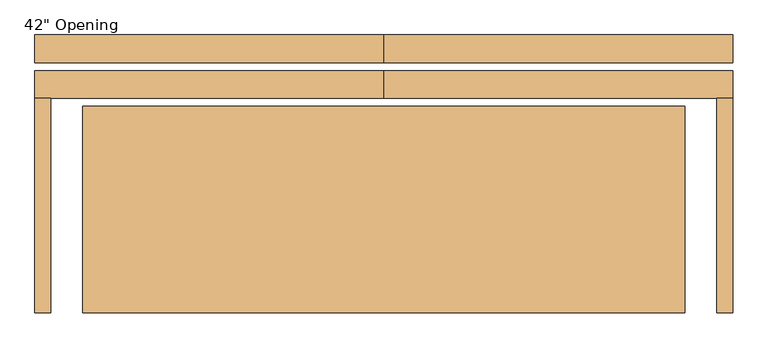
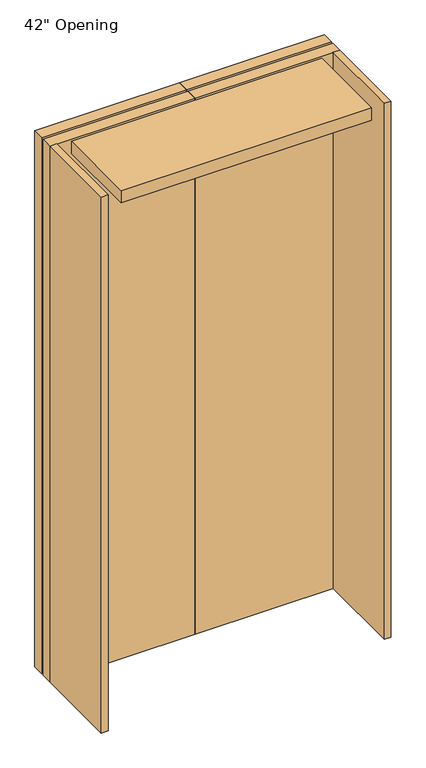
"""IFC4 building model written with IfcOpenShell, lengths in millimetres: door geometry."""

from ifc_helpers import new_model, si_unit, frame, origin, origin_with_axes, place, context, project, spatial, polyline, outline, extrude, source, transform, mapped, element, save


def door_aaeb5b8c(model_context):
    return source(origin(), model_context, "Body", "SweptSolid", [
        extrude(outline(polyline([(0.0, 234.95), (0.0, 279.4), (558.8, 279.4), (558.8, 234.95), (0.0, 234.95)])), origin_with_axes(), (0.0, 0.0, 1.0), 2184.4),
        extrude(outline(polyline([(0.0, 234.95), (-558.8, 234.95), (-558.8, 279.4), (0.0, 279.4), (0.0, 234.95)])), origin_with_axes(), (0.0, 0.0, 1.0), 2184.4),
        extrude(outline(polyline([(-533.4, -165.1), (-558.8, -165.1), (-558.8, 177.8), (-533.4, 177.8), (-533.4, -165.1)])), origin_with_axes(), (0.0, 0.0, 1.0), 2184.4),
        extrude(outline(polyline([(558.8, -165.1), (533.4, -165.1), (533.4, 177.8), (558.8, 177.8), (558.8, -165.1)])), origin_with_axes(), (0.0, 0.0, 1.0), 2184.4),
        extrude(outline(polyline([(482.6, 165.1), (482.6, -165.1), (-482.6, -165.1), (-482.6, 165.1), (482.6, 165.1)])), frame((0.0, 0.0, 2133.6), z_axis=(0.0, 0.0, 1.0), x_axis=(1.0, 0.0, 0.0)), (0.0, 0.0, 1.0), 50.8),
        extrude(outline(polyline([(0.0, 177.8), (0.0, 222.25), (558.8, 222.25), (558.8, 177.8), (0.0, 177.8)])), origin_with_axes(), (0.0, 0.0, 1.0), 2184.4),
        extrude(outline(polyline([(0.0, 177.8), (-558.8, 177.8), (-558.8, 222.25), (0.0, 222.25), (0.0, 177.8)])), origin_with_axes(), (0.0, 0.0, 1.0), 2184.4),
    ])


if __name__ == "__main__":
    model = new_model("IFC4")
    model_context = context("Model", 3, world=origin())
    ifc_project = project(units=[si_unit("LENGTHUNIT", "METRE", prefix="MILLI")], contexts=[model_context])
    site = spatial("IfcSite", under=ifc_project)
    building = spatial("IfcBuilding", under=site)
    placement = place(None, origin())
    door_shape = door_aaeb5b8c(model_context)
    element("IfcDoor", 1, ObjectType="Elevator_Door_CabCenter-Genericrfa : 42\" Opening", at=placement, inside=building, context=model_context, shape_type="MappedRepresentation", body=[
        mapped(door_shape, transform((0.0, 0.0, 0.0), x_axis=(1.0, 0.0, 0.0), y_axis=(0.0, 1.0, 0.0), z_axis=(0.0, 0.0, 1.0))),
    ])
    save(model, "model.ifc")
